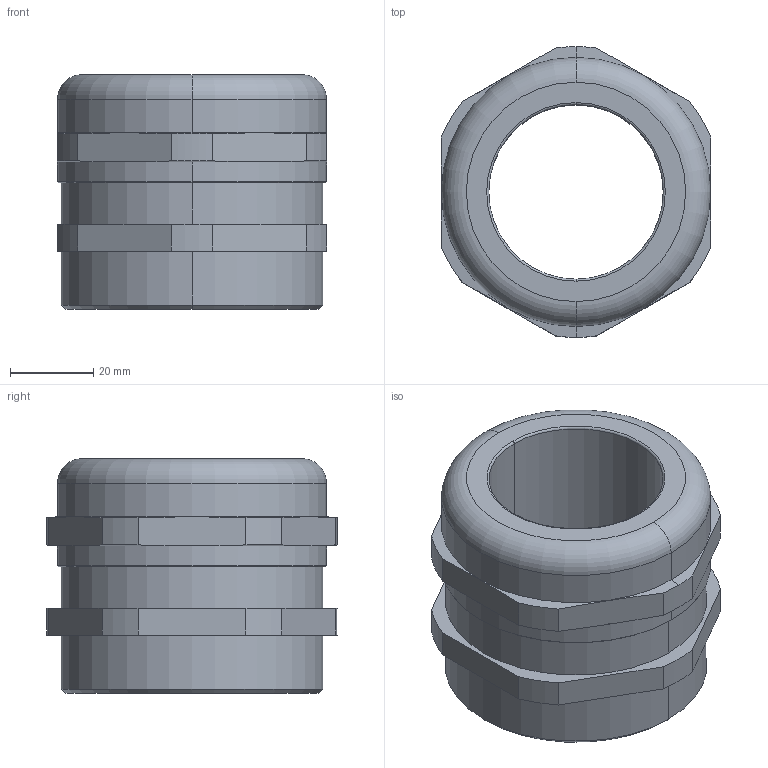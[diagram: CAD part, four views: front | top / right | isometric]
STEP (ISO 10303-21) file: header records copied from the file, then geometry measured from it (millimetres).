
FILE_DESCRIPTION (( 'STEP AP203' ), '1' );
FILE_NAME ('50.663 M-L.STEP', '2005-10-05T07:03:01', ( ' ' ), ( '' ), 'SwSTEP 2.0', 'SolidWorks 2005143', '' );
FILE_SCHEMA (( 'CONFIG_CONTROL_DESIGN' ));
Length unit declared in the file: millimetre
Products named in the file (1): 50.663 M-L
Bounding box: 65 x 70 x 56.5 mm (x, y, z)
Volume: 105945.8 mm3; surface area: 23576.4 mm2
Topology: 1 solids, 1 shells, 90 faces, 232 edges, 150 vertices
Faces by surface type: plane 54, cylinder 24, cone 8, torus 4
Entity records: 2835 total; most frequent: CARTESIAN_POINT 525, ORIENTED_EDGE 464, DIRECTION 464, EDGE_CURVE 232, LINE 158, VECTOR 158, AXIS2_PLACEMENT_3D 153, VERTEX_POINT 150
